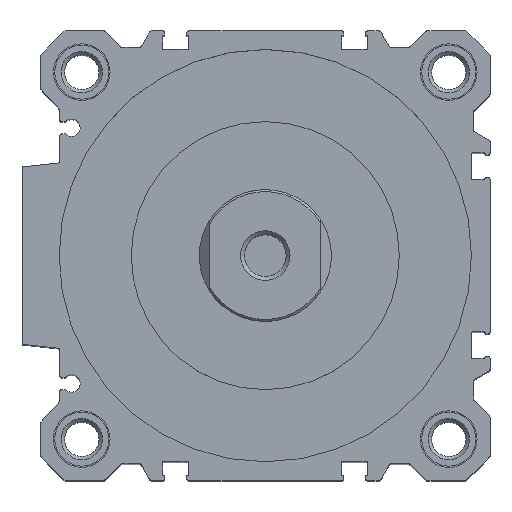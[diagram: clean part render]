
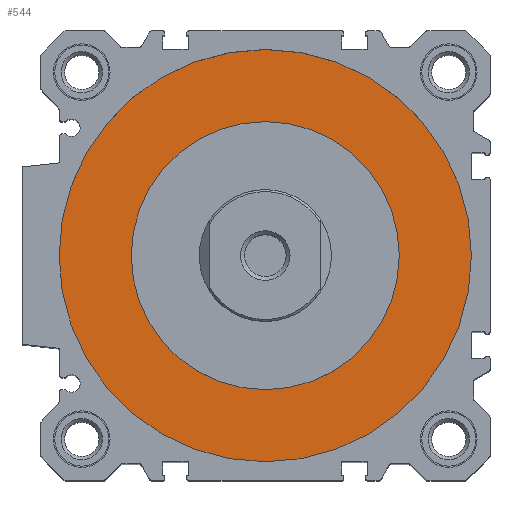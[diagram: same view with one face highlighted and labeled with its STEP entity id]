
A CAD part, top view. The second image highlights one B-rep face of the part: STEP entity #544.
In plain terms, the highlighted planar face has unit normal (0, 0, 1).
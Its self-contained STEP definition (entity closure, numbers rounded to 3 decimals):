
#544 = ADVANCED_FACE( '', ( #1218, #1219 ), #1220, .T. );
#1218 = FACE_BOUND( '', #2042, .T. );
#1219 = FACE_OUTER_BOUND( '', #2043, .T. );
#1220 = PLANE( '', #2044 );
#2042 = EDGE_LOOP( '', ( #3356 ) );
#2043 = EDGE_LOOP( '', ( #3357 ) );
#2044 = AXIS2_PLACEMENT_3D( '', #3358, #3359, #3360 );
#3356 = ORIENTED_EDGE( '', *, *, #5174, .F. );
#3357 = ORIENTED_EDGE( '', *, *, #4947, .T. );
#3358 = CARTESIAN_POINT( '', ( 0., 0., -7.8 ) );
#3359 = DIRECTION( '', ( 0., 0., 1. ) );
#3360 = DIRECTION( '', ( 1., 0., 0. ) );
#4947 = EDGE_CURVE( '', #5986, #5986, #5987, .T. );
#5174 = EDGE_CURVE( '', #6349, #6349, #6350, .T. );
#5986 = VERTEX_POINT( '', #7408 );
#5987 = CIRCLE( '', #7409, 50. );
#6349 = VERTEX_POINT( '', #7877 );
#6350 = CIRCLE( '', #7878, 32.5 );
#7408 = CARTESIAN_POINT( '', ( 50., 0., -7.8 ) );
#7409 = AXIS2_PLACEMENT_3D( '', #8875, #8876, #8877 );
#7877 = CARTESIAN_POINT( '', ( 32.5, 0., -7.8 ) );
#7878 = AXIS2_PLACEMENT_3D( '', #9167, #9168, #9169 );
#8875 = CARTESIAN_POINT( '', ( 0., 0., -7.8 ) );
#8876 = DIRECTION( '', ( 0., 0., 1. ) );
#8877 = DIRECTION( '', ( 1., 0., 0. ) );
#9167 = CARTESIAN_POINT( '', ( 0., 0., -7.8 ) );
#9168 = DIRECTION( '', ( 0., 0., 1. ) );
#9169 = DIRECTION( '', ( 1., 0., 0. ) );
